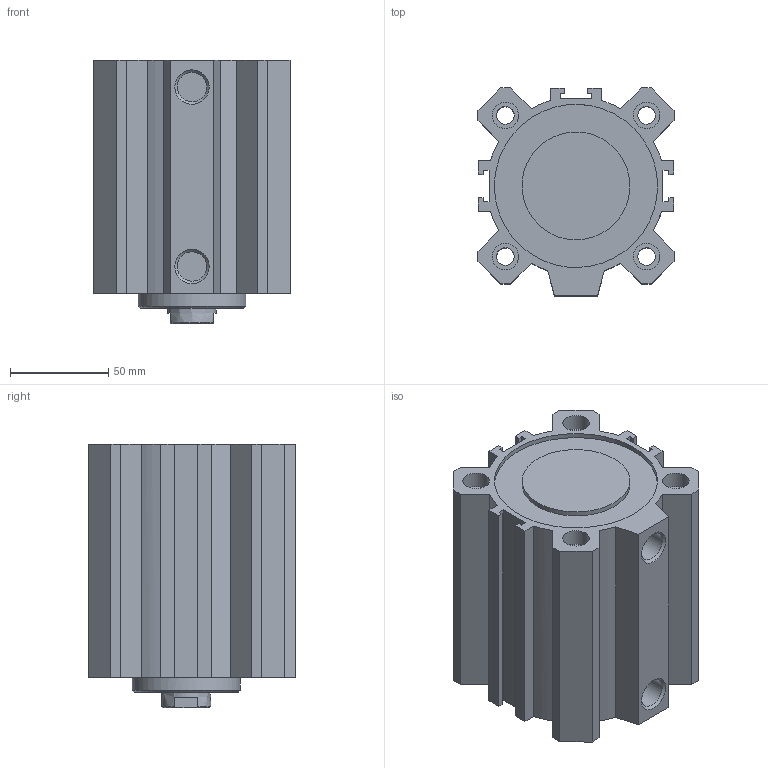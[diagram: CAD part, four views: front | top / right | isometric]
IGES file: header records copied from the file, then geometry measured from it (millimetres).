
Global section: file name: 1511_80_0070; native system: Autodesk Inventor 2014; preprocessor: unknown; author: A. Manieri; date: 20160824.142242; units: millimetre
Bounding box: 100 x 106 x 134.5 mm (x, y, z)
Volume: 660992 mm3; surface area: 153935.9 mm2
Topology: 2 solids, 2 shells, 119 faces, 307 edges, 210 vertices
Faces by surface type: bspline 119
